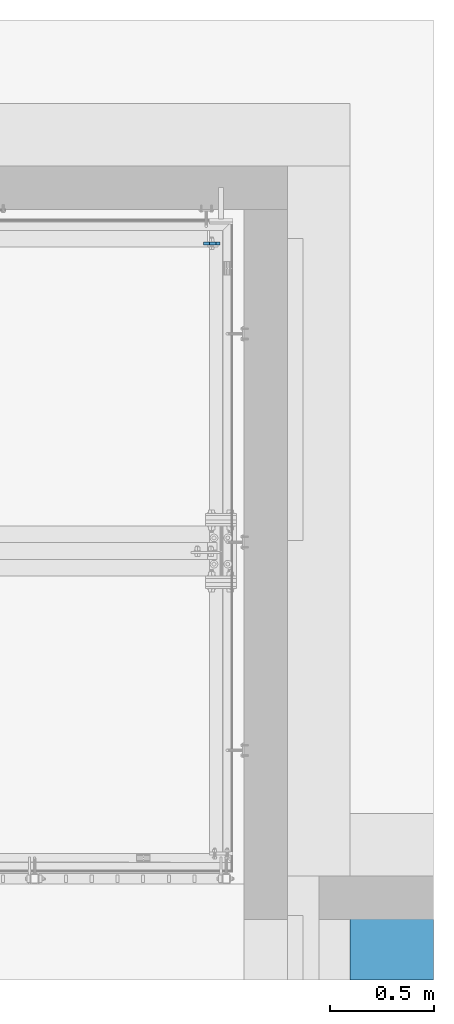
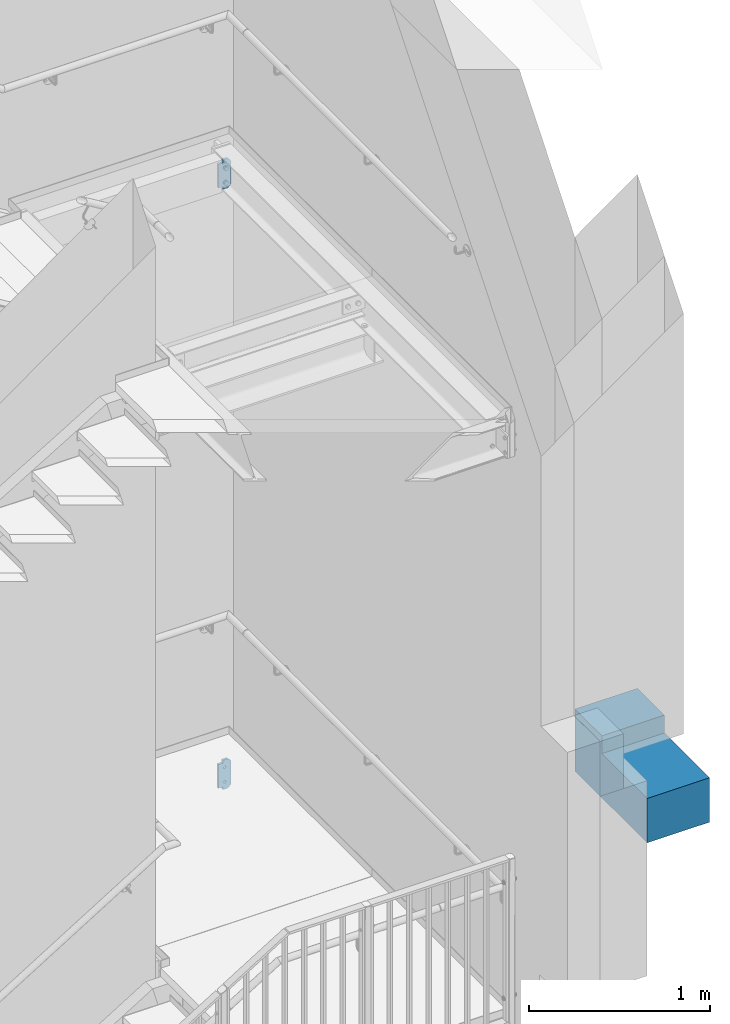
# One storey, part 67 of 410: 2 plates, 1 slab, 13 openings.
"""IFC2X3 building model written with IfcOpenShell, lengths in millimetres."""

from ifc_helpers import new_model, entity, si_unit, converted_unit, frame, frame_2d, origin, origin_with_axes, origin_2d_with_axis, place, context, project, spatial, polyline, circle, outline, extrude, material, layer, layer_set, element, save


model = new_model("IFC2X3")

# Units and contexts
model_context = context("Model", 3, precision=1e-09, world=origin_with_axes())
ifc_project = project(units=[si_unit("LENGTHUNIT", "METRE", prefix="MILLI"), si_unit("AREAUNIT", "SQUARE_METRE"), si_unit("VOLUMEUNIT", "CUBIC_METRE"), converted_unit("PLANEANGLEUNIT", "DEGREE", entity("IfcPlaneAngleMeasure", 0.01745329), si_unit("PLANEANGLEUNIT", "RADIAN"), dimensions=[0, 0, 0, 0, 0, 0, 0])], contexts=[model_context])

# Site, building, storey
site_placement = place(None, origin_with_axes())
site = spatial("IfcSite", under=ifc_project, at=site_placement, Name="mKR Teilneubau & Sanierung BA1 - Ostfildern", CompositionType="ELEMENT")
building_placement = place(site_placement, origin_with_axes())
building = spatial("IfcBuilding", under=site, at=building_placement, Name="Struktur 1", CompositionType="ELEMENT")
storey_placement = place(building_placement, origin_with_axes())
storey = spatial("IfcBuildingStorey", under=building, at=storey_placement, Name="Default Storey", CompositionType="ELEMENT", Elevation=0.0)

# Plate, openings
ifc_material_1 = material(Name="S235JR")
ifc_layer_1 = layer(ifc_material_1, 15.0)
ifc_layer_set_1 = layer_set([ifc_layer_1], Name="S235JR")
plate_1_placement = place(None, frame((3176.051468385, 18448.999999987, 1842.343478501), z_axis=(0.0, -1.0, 0.0), x_axis=(-1.0, 0.0, 0.0)))
plate_1 = element("IfcPlate", 1, at=plate_1_placement, inside=storey, material=ifc_layer_set_1, Name="LugPlate#1", ObjectType="LugPlate#1", context=model_context, shape_type="SweptSolid", body=[
    extrude(outline(polyline([(0.0, 0.0), (80.0, 0.0), (80.0, 198.6), (0.0, 198.6), (0.0, 0.0)])), origin_with_axes(), (0.0, 0.0, -1.0), 15.0),
])
opening_1_placement = place(plate_1_placement, frame((0.0, 0.0, 0.01), z_axis=(0.0, 0.0, 1.0), x_axis=(1.0, 0.0, 0.0)))
element("IfcOpeningElement", 2, at=opening_1_placement, cuts=plate_1, ObjectType="Opening", context=model_context, shape_type="SweptSolid", body=[
    extrude(outline(polyline([(0.0, 0.0), (20.0, 0.0), (0.0, 20.0), (0.0, 0.0)])), origin(), (0.0, 0.0, -1.0), 15.02),
])
opening_2_placement = place(plate_1_placement, frame((0.0, 198.6, 0.01), z_axis=(0.0, 0.0, 1.0), x_axis=(0.0, -1.0, 0.0)))
element("IfcOpeningElement", 3, at=opening_2_placement, cuts=plate_1, ObjectType="Opening", context=model_context, shape_type="SweptSolid", body=[
    extrude(outline(polyline([(0.0, 0.0), (20.0, 0.0), (0.0, 20.0), (0.0, 0.0)])), origin(), (0.0, 0.0, -1.0), 15.02),
])
opening_3_placement = place(plate_1_placement, frame((99.857709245, 209.301, -15.1), z_axis=(0.0, 0.0, -1.0), x_axis=(0.0, -1.0, 0.0)))
element("IfcOpeningElement", 4, at=opening_3_placement, cuts=plate_1, ObjectType="Opening", context=model_context, shape_type="SweptSolid", body=[
    extrude(outline(polyline([(0.0, 0.0), (30.002, 0.0), (30.002, 48.808709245), (0.0, 48.808709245), (0.0, 0.0)])), origin(), (0.0, 0.0, -1.0), 15.2),
])
opening_4_placement = place(plate_1_placement, frame((95.314579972, 19.301, -15.1), z_axis=(0.0, 0.0, -1.0), x_axis=(0.0, -1.0, 0.0)))
element("IfcOpeningElement", 5, at=opening_4_placement, cuts=plate_1, ObjectType="Opening", context=model_context, shape_type="SweptSolid", body=[
    extrude(outline(polyline([(0.0, 0.0), (30.001999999, 0.0), (30.001999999, 44.265579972), (0.0, 44.265579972), (0.0, 0.0)])), origin(), (0.0, 0.0, -1.0), 15.2),
])
opening_5_placement = place(plate_1_placement, frame((40.0, 49.300000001, -15.5), z_axis=(0.0, 0.0, 1.0), x_axis=(1.0, 0.0, 0.0)))
element("IfcOpeningElement", 6, at=opening_5_placement, cuts=plate_1, ObjectType="Opening", context=model_context, shape_type="SweptSolid", body=[
    extrude(circle(Radius=9.001, at=frame_2d((0.0, 100.0), x_axis=(1.0, 0.0))), origin(), (0.0, 0.0, 1.0), 16.0),
])
opening_6_placement = place(plate_1_placement, frame((40.0, 49.300000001, -15.5), z_axis=(0.0, 0.0, 1.0), x_axis=(1.0, 0.0, 0.0)))
element("IfcOpeningElement", 7, at=opening_6_placement, cuts=plate_1, ObjectType="Opening", context=model_context, shape_type="SweptSolid", body=[
    extrude(circle(Radius=9.001, at=origin_2d_with_axis()), origin(), (0.0, 0.0, 1.0), 16.0),
])

plate_2_placement = place(None, frame((3176.051468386, 18448.999999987, -2216.299999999), z_axis=(0.0, -1.0, 0.0), x_axis=(-1.0, 0.0, 0.0)))
plate_2 = element("IfcPlate", 8, at=plate_2_placement, inside=storey, material=ifc_layer_set_1, Name="LugPlate#1", ObjectType="LugPlate#1", context=model_context, shape_type="SweptSolid", body=[
    extrude(outline(polyline([(0.0, 0.0), (80.0, 0.0), (80.0, 198.6), (0.0, 198.6), (0.0, 0.0)])), origin_with_axes(), (0.0, 0.0, -1.0), 15.0),
])
opening_7_placement = place(plate_2_placement, frame((0.0, 0.0, 0.01), z_axis=(0.0, 0.0, 1.0), x_axis=(1.0, 0.0, 0.0)))
element("IfcOpeningElement", 9, at=opening_7_placement, cuts=plate_2, ObjectType="Opening", context=model_context, shape_type="SweptSolid", body=[
    extrude(outline(polyline([(0.0, 0.0), (20.0, 0.0), (0.0, 20.0), (0.0, 0.0)])), origin(), (0.0, 0.0, -1.0), 15.02),
])
opening_8_placement = place(plate_2_placement, frame((0.0, 198.6, 0.01), z_axis=(0.0, 0.0, 1.0), x_axis=(0.0, -1.0, 0.0)))
element("IfcOpeningElement", 10, at=opening_8_placement, cuts=plate_2, ObjectType="Opening", context=model_context, shape_type="SweptSolid", body=[
    extrude(outline(polyline([(0.0, 0.0), (20.0, 0.0), (0.0, 20.0), (0.0, 0.0)])), origin(), (0.0, 0.0, -1.0), 15.02),
])
opening_9_placement = place(plate_2_placement, frame((99.857709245, 209.301, -15.1), z_axis=(0.0, 0.0, -1.0), x_axis=(0.0, -1.0, 0.0)))
element("IfcOpeningElement", 11, at=opening_9_placement, cuts=plate_2, ObjectType="Opening", context=model_context, shape_type="SweptSolid", body=[
    extrude(outline(polyline([(0.0, 0.0), (30.002, 0.0), (30.002, 48.808709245), (0.0, 48.808709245), (0.0, 0.0)])), origin(), (0.0, 0.0, -1.0), 15.2),
])
opening_10_placement = place(plate_2_placement, frame((95.314579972, 19.301, -15.1), z_axis=(0.0, 0.0, -1.0), x_axis=(0.0, -1.0, 0.0)))
element("IfcOpeningElement", 12, at=opening_10_placement, cuts=plate_2, ObjectType="Opening", context=model_context, shape_type="SweptSolid", body=[
    extrude(outline(polyline([(0.0, 0.0), (30.001999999, 0.0), (30.001999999, 44.265579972), (0.0, 44.265579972), (0.0, 0.0)])), origin(), (0.0, 0.0, -1.0), 15.2),
])
opening_11_placement = place(plate_2_placement, frame((40.0, 49.300000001, -15.5), z_axis=(0.0, 0.0, 1.0), x_axis=(1.0, 0.0, 0.0)))
element("IfcOpeningElement", 13, at=opening_11_placement, cuts=plate_2, ObjectType="Opening", context=model_context, shape_type="SweptSolid", body=[
    extrude(circle(Radius=9.001, at=frame_2d((0.0, 100.0), x_axis=(1.0, 0.0))), origin(), (0.0, 0.0, 1.0), 16.0),
])
opening_12_placement = place(plate_2_placement, frame((40.0, 49.300000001, -15.5), z_axis=(0.0, 0.0, 1.0), x_axis=(1.0, 0.0, 0.0)))
element("IfcOpeningElement", 14, at=opening_12_placement, cuts=plate_2, ObjectType="Opening", context=model_context, shape_type="SweptSolid", body=[
    extrude(circle(Radius=9.001, at=origin_2d_with_axis()), origin(), (0.0, 0.0, 1.0), 16.0),
])

# Slab, opening
ifc_material_2 = material(Name="C25/30")
ifc_layer_2 = layer(ifc_material_2, 420.0)
ifc_layer_set_2 = layer_set([ifc_layer_2], Name="C25/30")
slab_placement = place(None, frame((4000.00025, 15320.000288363, -870.0), z_axis=(0.0, 0.0, 1.0), x_axis=(0.0, -1.0, 0.0)))
slab = element("IfcSlab", 15, at=slab_placement, inside=storey, material=ifc_layer_set_2, Name="-", ObjectType="-", context=model_context, shape_type="SweptSolid", body=[
    extrude(outline(polyline([(-400.000211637, -199.99975), (400.000211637, -199.99975), (400.000211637, 199.99975), (-400.000211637, 199.99975), (-400.000211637, -199.99975)])), origin_with_axes(), (0.0, 0.0, 1.0), 420.0),
])
opening_13_placement = place(slab_placement, frame((0.0, 0.0, 300.0), z_axis=(0.0, 0.0, 1.0), x_axis=(0.0, 1.0, 0.0)))
element("IfcOpeningElement", 16, at=opening_13_placement, cuts=slab, ObjectType="Opening", context=model_context, shape_type="SweptSolid", body=[
    extrude(outline(polyline([(-200.00075, -400.001211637), (200.00075, -400.001211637), (200.00075, 100.000711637), (-200.00075, 100.000711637), (-200.00075, -400.001211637)])), origin(), (0.0, 0.0, 1.0), 120.1),
])

save(model, "model.ifc")
